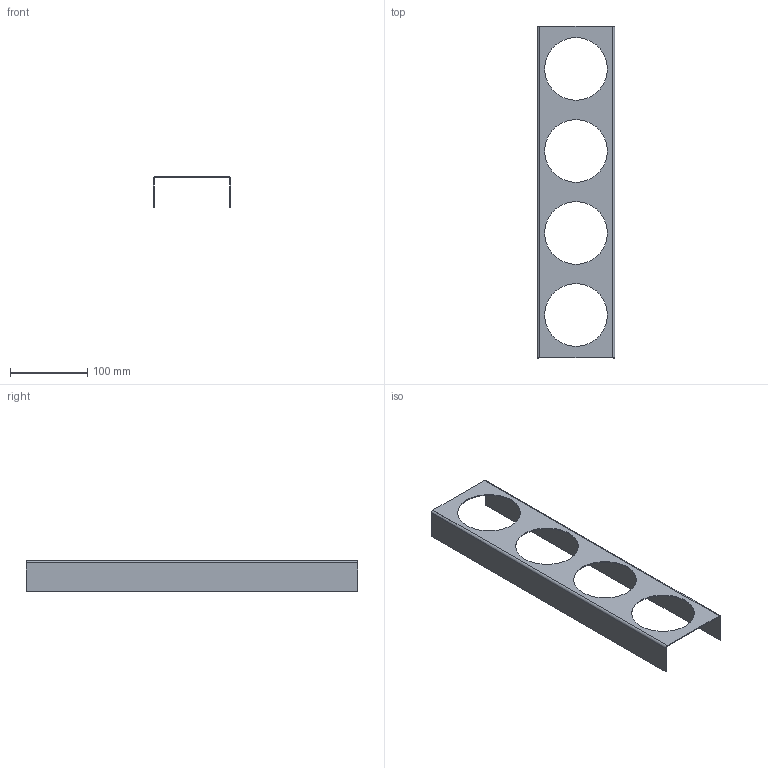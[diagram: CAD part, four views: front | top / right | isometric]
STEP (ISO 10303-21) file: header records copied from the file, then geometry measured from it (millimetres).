
FILE_DESCRIPTION (( 'STEP AP214' ), '1' );
FILE_NAME ('Gewuerzeinsatz_68318-01.STEP', '2010-10-25T13:41:55', ( 'grass' ), ( '' ), 'SwSTEP 2.0', 'SolidWorks 2010', '' );
FILE_SCHEMA (( 'AUTOMOTIVE_DESIGN' ));
Length unit declared in the file: millimetre
Products named in the file (1): Gewuerzeinsatz_68318-01
Bounding box: 100 x 429 x 40 mm (x, y, z)
Volume: 54829.4 mm3; surface area: 111886.3 mm2
Topology: 1 solids, 1 shells, 22 faces, 60 edges, 40 vertices
Faces by surface type: cylinder 12, plane 10
Entity records: 758 total; most frequent: DIRECTION 130, CARTESIAN_POINT 123, ORIENTED_EDGE 120, EDGE_CURVE 60, AXIS2_PLACEMENT_3D 47, VERTEX_POINT 40, LINE 36, VECTOR 36
